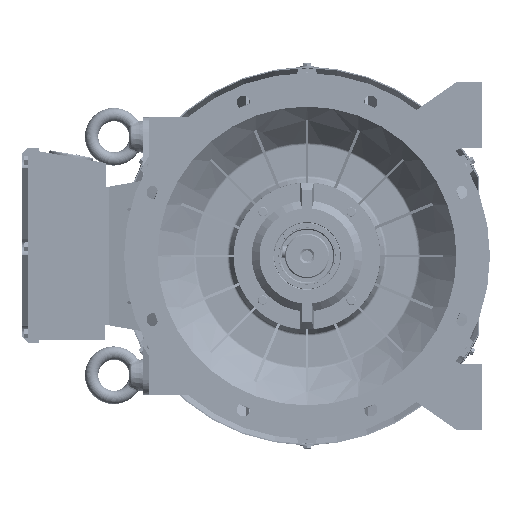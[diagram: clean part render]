
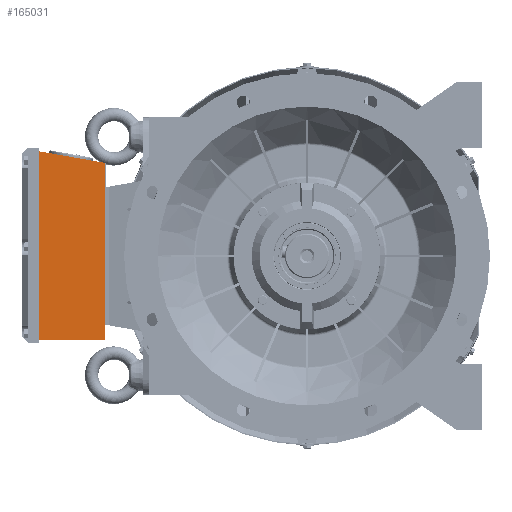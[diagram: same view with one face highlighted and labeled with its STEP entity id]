
A CAD part, left-side view. The second image highlights one B-rep face of the part: STEP entity #165031.
In plain terms, the highlighted planar face has unit normal (-1, 0, 0).
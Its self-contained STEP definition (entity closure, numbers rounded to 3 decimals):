
#6028 = VERTEX_POINT ( 'NONE', #175579 ) ;
#20414 = CARTESIAN_POINT ( 'NONE',  ( -139.172, 450.262, 189.012 ) ) ;
#23083 = CARTESIAN_POINT ( 'NONE',  ( -139.172, 450.262, -125. ) ) ;
#33600 = VECTOR ( 'NONE', #241959, 1000. ) ;
#33756 = EDGE_LOOP ( 'NONE', ( #259883, #294314, #307213, #289939 ) ) ;
#33884 = EDGE_CURVE ( 'NONE', #58785, #167308, #146570, .T. ) ;
#37655 = DIRECTION ( 'NONE',  ( -1., 0., 0. ) ) ;
#44165 = CARTESIAN_POINT ( 'NONE',  ( -139.172, 450.262, -151. ) ) ;
#46557 = FACE_OUTER_BOUND ( 'NONE', #33756, .T. ) ;
#54862 = EDGE_CURVE ( 'NONE', #167308, #221592, #98754, .T. ) ;
#58785 = VERTEX_POINT ( 'NONE', #67574 ) ;
#60699 = DIRECTION ( 'NONE',  ( 0., -1., 0. ) ) ;
#67574 = CARTESIAN_POINT ( 'NONE',  ( -139.172, 331.262, 168.029 ) ) ;
#69562 = EDGE_CURVE ( 'NONE', #6028, #58785, #178547, .T. ) ;
#73482 = VECTOR ( 'NONE', #75297, 1000. ) ;
#75297 = DIRECTION ( 'NONE',  ( 0., 0., -1. ) ) ;
#83283 = VECTOR ( 'NONE', #60699, 1000. ) ;
#90750 = VECTOR ( 'NONE', #273972, 1000. ) ;
#98754 = LINE ( 'NONE', #194191, #73482 ) ;
#130078 = CARTESIAN_POINT ( 'NONE',  ( -139.172, 331.262, -151. ) ) ;
#133078 = DIRECTION ( 'NONE',  ( 0., 0., 1. ) ) ;
#146570 = LINE ( 'NONE', #213898, #33600 ) ;
#165031 = ADVANCED_FACE ( 'NONE', ( #46557 ), #210877, .T. ) ;
#167308 = VERTEX_POINT ( 'NONE', #20414 ) ;
#175579 = CARTESIAN_POINT ( 'NONE',  ( -139.172, 331.262, -151. ) ) ;
#178547 = LINE ( 'NONE', #130078, #90750 ) ;
#179570 = LINE ( 'NONE', #273429, #83283 ) ;
#194191 = CARTESIAN_POINT ( 'NONE',  ( -139.172, 450.262, -151. ) ) ;
#210877 = PLANE ( 'NONE',  #247390 ) ;
#213898 = CARTESIAN_POINT ( 'NONE',  ( -139.172, 328.262, 167.5 ) ) ;
#221592 = VERTEX_POINT ( 'NONE', #44165 ) ;
#241959 = DIRECTION ( 'NONE',  ( 0., 0.985, 0.174 ) ) ;
#247390 = AXIS2_PLACEMENT_3D ( 'NONE', #23083, #37655, #133078 ) ;
#259883 = ORIENTED_EDGE ( 'NONE', *, *, #69562, .T. ) ;
#264899 = EDGE_CURVE ( 'NONE', #221592, #6028, #179570, .T. ) ;
#273429 = CARTESIAN_POINT ( 'NONE',  ( -139.172, 331.262, -151. ) ) ;
#273972 = DIRECTION ( 'NONE',  ( 0., 0., 1. ) ) ;
#289939 = ORIENTED_EDGE ( 'NONE', *, *, #264899, .T. ) ;
#294314 = ORIENTED_EDGE ( 'NONE', *, *, #33884, .T. ) ;
#307213 = ORIENTED_EDGE ( 'NONE', *, *, #54862, .T. ) ;
